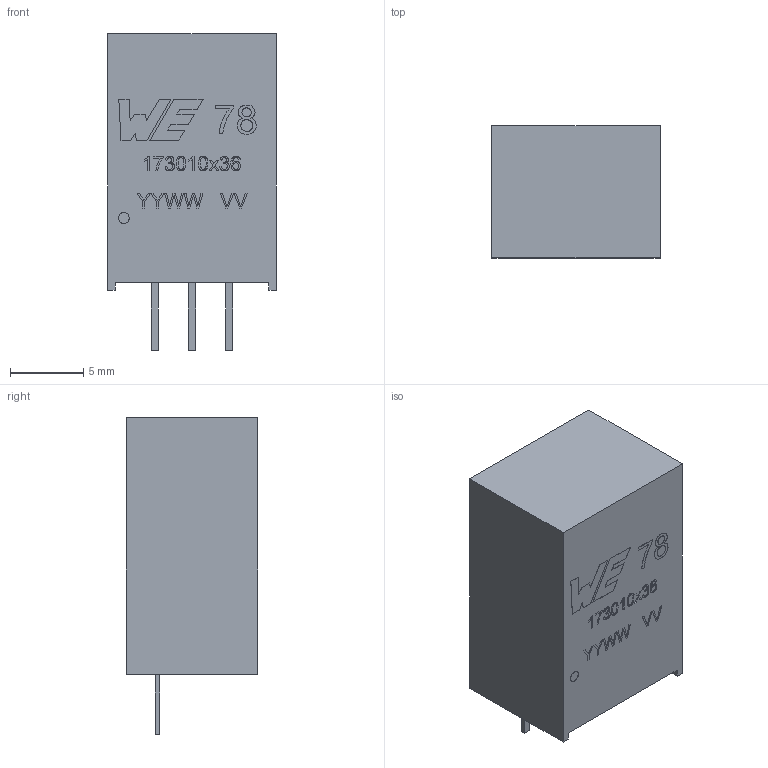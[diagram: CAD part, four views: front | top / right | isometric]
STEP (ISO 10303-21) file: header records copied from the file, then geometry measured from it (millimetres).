
FILE_DESCRIPTION(/* description */ ('Unknown'),/* implementation_level */ '2;1');
FILE_NAME(/* name */ '173010x36',/* time_stamp */ '2019-03-15T09:17:29+01:00',/* author */ ('Unknown'),/* organization */ ('Unknown'),/* preprocessor_version */ 'ST-DEVELOPER v16.7',/* originating_system */ 'DEX',/* authorisation */ $);
FILE_SCHEMA (('AUTOMOTIVE_DESIGN {1 0 10303 214 3 1 1}'));
Length unit declared in the file: millimetre
Products named in the file (1): 173010x36
Bounding box: 11.5 x 9 x 21.6 mm (x, y, z)
Volume: 1765.9 mm3; surface area: 946.2 mm2
Topology: 1 solids, 1 shells, 200 faces, 510 edges, 340 vertices
Faces by surface type: plane 149, bspline 50, cylinder 1
Full cylindrical faces by diameter (mm): 0.75 x1
Entity records: 8957 total; most frequent: CARTESIAN_POINT 3345, ORIENTED_EDGE 1004, DIRECTION 558, EDGE_CURVE 502, VERTEX_POINT 340, LINE 252, VECTOR 252, B_SPLINE_CURVE_WITH_KNOTS 248
